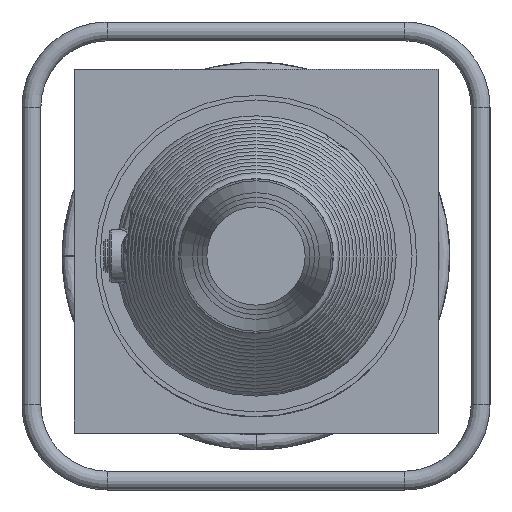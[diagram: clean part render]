
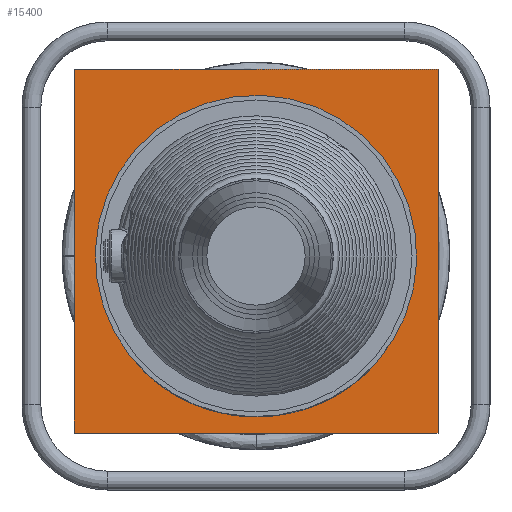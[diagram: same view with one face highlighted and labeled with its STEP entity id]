
A CAD part, left-side view. The second image highlights one B-rep face of the part: STEP entity #15400.
In plain terms, the highlighted planar face has unit normal (-1, 0, 0).
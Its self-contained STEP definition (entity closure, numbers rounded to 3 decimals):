
#1545=PLANE('',#16308);
#2417=LINE('',#40854,#3298);
#2421=LINE('',#40861,#3302);
#2424=LINE('',#40866,#3305);
#2427=LINE('',#40870,#3308);
#3298=VECTOR('',#18966,385.);
#3302=VECTOR('',#18972,385.);
#3305=VECTOR('',#18977,385.);
#3308=VECTOR('',#18982,385.);
#3609=FACE_BOUND('',#5608,.T.);
#4517=FACE_OUTER_BOUND('',#5607,.T.);
#5607=EDGE_LOOP('',(#14053,#14054,#14055,#14056));
#5608=EDGE_LOOP('',(#14057));
#5992=CIRCLE('',#16058,170.);
#7457=VERTEX_POINT('',#35678);
#7599=VERTEX_POINT('',#40852);
#7600=VERTEX_POINT('',#40853);
#7602=VERTEX_POINT('',#40860);
#7603=VERTEX_POINT('',#40865);
#9585=EDGE_CURVE('',#7457,#7457,#5992,.T.);
#9761=EDGE_CURVE('',#7599,#7600,#2417,.T.);
#9765=EDGE_CURVE('',#7600,#7602,#2421,.T.);
#9768=EDGE_CURVE('',#7602,#7603,#2424,.T.);
#9771=EDGE_CURVE('',#7603,#7599,#2427,.T.);
#14053=ORIENTED_EDGE('',*,*,#9771,.T.);
#14054=ORIENTED_EDGE('',*,*,#9761,.T.);
#14055=ORIENTED_EDGE('',*,*,#9765,.T.);
#14056=ORIENTED_EDGE('',*,*,#9768,.T.);
#14057=ORIENTED_EDGE('',*,*,#9585,.T.);
#15400=ADVANCED_FACE('',(#4517,#3609),#1545,.F.);
#16058=AXIS2_PLACEMENT_3D('',#35679,#18467,#18468);
#16308=AXIS2_PLACEMENT_3D('',#40871,#18983,#18984);
#18467=DIRECTION('center_axis',(1.,0.,0.));
#18468=DIRECTION('ref_axis',(0.,-0.667,0.745));
#18966=DIRECTION('',(0.,0.,-1.));
#18972=DIRECTION('',(0.,-1.,0.));
#18977=DIRECTION('',(0.,0.,1.));
#18982=DIRECTION('',(0.,1.,0.));
#18983=DIRECTION('center_axis',(1.,0.,0.));
#18984=DIRECTION('ref_axis',(0.,0.,1.));
#35678=CARTESIAN_POINT('',(-112.151,-113.452,126.604));
#35679=CARTESIAN_POINT('Origin',(-112.151,0.,
0.));
#40852=CARTESIAN_POINT('',(-112.151,192.5,197.753));
#40853=CARTESIAN_POINT('',(-112.151,192.5,-187.247));
#40854=CARTESIAN_POINT('',(-112.151,192.5,197.753));
#40860=CARTESIAN_POINT('',(-112.151,-192.5,-187.247));
#40861=CARTESIAN_POINT('',(-112.151,192.5,-187.247));
#40865=CARTESIAN_POINT('',(-112.151,-192.5,197.753));
#40866=CARTESIAN_POINT('',(-112.151,-192.5,-187.247));
#40870=CARTESIAN_POINT('',(-112.151,-192.5,197.753));
#40871=CARTESIAN_POINT('Origin',(-112.151,0.,5.253));
